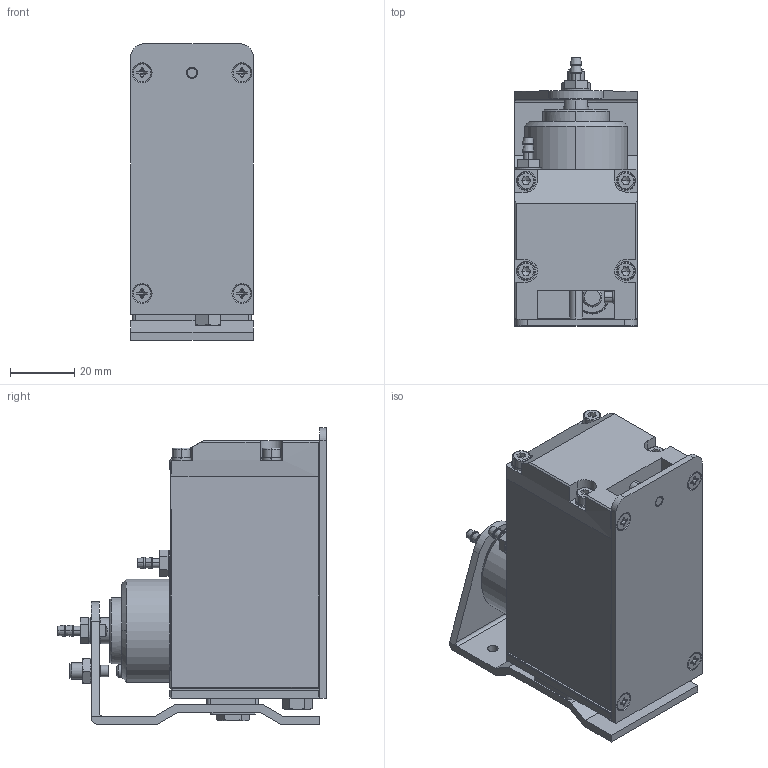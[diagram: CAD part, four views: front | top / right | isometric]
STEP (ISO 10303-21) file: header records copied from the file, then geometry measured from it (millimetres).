
FILE_DESCRIPTION (( 'STEP AP214' ), '1' );
FILE_NAME ('GT-NT10.STEP', '2019-11-27T08:44:44', ( '微软用户' ), ( '微软中国' ), 'SwSTEP 2.0', 'SolidWorks 2016', '' );
FILE_SCHEMA (( 'AUTOMOTIVE_DESIGN' ));
Length unit declared in the file: millimetre
Products named in the file (1): GT-NT10
Bounding box: 38 x 83.3 x 92 mm (x, y, z)
Surface area: 44616.9 mm2 (no closed solid volume)
Topology: 0 solids, 123 shells, 1152 faces, 2993 edges, 2025 vertices
Faces by surface type: plane 539, cylinder 324, bspline 185, cone 88, torus 16
Entity records: 53988 total; most frequent: CARTESIAN_POINT 21102, ORIENTED_EDGE 5438, DIRECTION 4831, EDGE_CURVE 2957, VERTEX_POINT 2025, AXIS2_PLACEMENT_3D 1804, EDGE_LOOP 1302, LINE 1223
